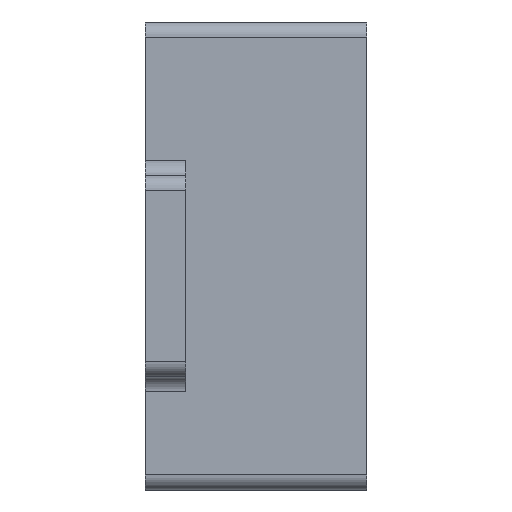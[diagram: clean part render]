
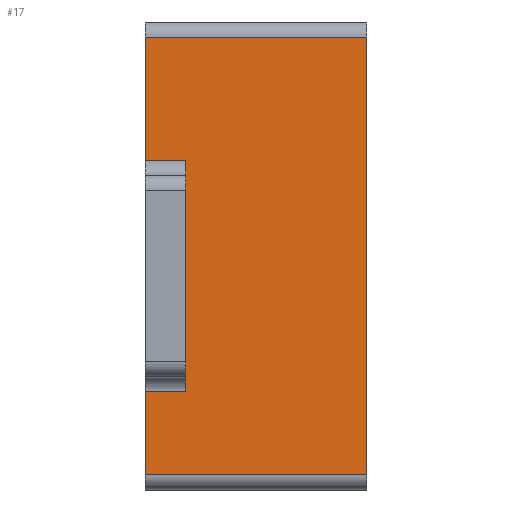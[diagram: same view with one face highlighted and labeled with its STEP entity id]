
A CAD part, left-side view. The second image highlights one B-rep face of the part: STEP entity #17.
In plain terms, the highlighted planar face has unit normal (-1, 0, 0).
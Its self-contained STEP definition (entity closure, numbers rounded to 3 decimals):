
#17 = ADVANCED_FACE('',(#18),#32,.F.);
#18 = FACE_BOUND('',#19,.F.);
#19 = EDGE_LOOP('',(#20,#55,#83,#111,#139,#162,#190,#218,#239,#262));
#20 = ORIENTED_EDGE('',*,*,#21,.T.);
#21 = EDGE_CURVE('',#22,#24,#26,.T.);
#22 = VERTEX_POINT('',#23);
#23 = CARTESIAN_POINT('',(-5.35,-44.6,252.8));
#24 = VERTEX_POINT('',#25);
#25 = CARTESIAN_POINT('',(-5.35,-44.6,255.25));
#26 = SURFACE_CURVE('',#27,(#31,#43),.PCURVE_S1.);
#27 = LINE('',#28,#29);
#28 = CARTESIAN_POINT('',(-5.35,-44.6,246.25));
#29 = VECTOR('',#30,1.);
#30 = DIRECTION('',(0.,0.,1.));
#31 = PCURVE('',#32,#37);
#32 = PLANE('',#33);
#33 = AXIS2_PLACEMENT_3D('',#34,#35,#36);
#34 = CARTESIAN_POINT('',(-5.35,-49.,246.25));
#35 = DIRECTION('',(1.,0.,-0.));
#36 = DIRECTION('',(0.,0.,1.));
#37 = DEFINITIONAL_REPRESENTATION('',(#38),#42);
#38 = LINE('',#39,#40);
#39 = CARTESIAN_POINT('',(0.,-4.4));
#40 = VECTOR('',#41,1.);
#41 = DIRECTION('',(1.,0.));
#42 = ( GEOMETRIC_REPRESENTATION_CONTEXT(2) 
PARAMETRIC_REPRESENTATION_CONTEXT() REPRESENTATION_CONTEXT('2D SPACE',''
  ) );
#43 = PCURVE('',#44,#49);
#44 = PLANE('',#45);
#45 = AXIS2_PLACEMENT_3D('',#46,#47,#48);
#46 = CARTESIAN_POINT('',(-5.35,-44.6,246.25));
#47 = DIRECTION('',(-0.,1.,0.));
#48 = DIRECTION('',(0.,0.,1.));
#49 = DEFINITIONAL_REPRESENTATION('',(#50),#54);
#50 = LINE('',#51,#52);
#51 = CARTESIAN_POINT('',(0.,0.));
#52 = VECTOR('',#53,1.);
#53 = DIRECTION('',(1.,0.));
#54 = ( GEOMETRIC_REPRESENTATION_CONTEXT(2) 
PARAMETRIC_REPRESENTATION_CONTEXT() REPRESENTATION_CONTEXT('2D SPACE',''
  ) );
#55 = ORIENTED_EDGE('',*,*,#56,.F.);
#56 = EDGE_CURVE('',#57,#24,#59,.T.);
#57 = VERTEX_POINT('',#58);
#58 = CARTESIAN_POINT('',(-5.35,-49.,255.25));
#59 = SURFACE_CURVE('',#60,(#64,#71),.PCURVE_S1.);
#60 = LINE('',#61,#62);
#61 = CARTESIAN_POINT('',(-5.35,-49.,255.25));
#62 = VECTOR('',#63,1.);
#63 = DIRECTION('',(0.,1.,0.));
#64 = PCURVE('',#32,#65);
#65 = DEFINITIONAL_REPRESENTATION('',(#66),#70);
#66 = LINE('',#67,#68);
#67 = CARTESIAN_POINT('',(9.,0.));
#68 = VECTOR('',#69,1.);
#69 = DIRECTION('',(0.,-1.));
#70 = ( GEOMETRIC_REPRESENTATION_CONTEXT(2) 
PARAMETRIC_REPRESENTATION_CONTEXT() REPRESENTATION_CONTEXT('2D SPACE',''
  ) );
#71 = PCURVE('',#72,#77);
#72 = CYLINDRICAL_SURFACE('',#73,0.3);
#73 = AXIS2_PLACEMENT_3D('',#74,#75,#76);
#74 = CARTESIAN_POINT('',(-5.05,-49.,255.25));
#75 = DIRECTION('',(0.,1.,0.));
#76 = DIRECTION('',(-1.,0.,0.));
#77 = DEFINITIONAL_REPRESENTATION('',(#78),#82);
#78 = LINE('',#79,#80);
#79 = CARTESIAN_POINT('',(0.,0.));
#80 = VECTOR('',#81,1.);
#81 = DIRECTION('',(0.,1.));
#82 = ( GEOMETRIC_REPRESENTATION_CONTEXT(2) 
PARAMETRIC_REPRESENTATION_CONTEXT() REPRESENTATION_CONTEXT('2D SPACE',''
  ) );
#83 = ORIENTED_EDGE('',*,*,#84,.F.);
#84 = EDGE_CURVE('',#85,#57,#87,.T.);
#85 = VERTEX_POINT('',#86);
#86 = CARTESIAN_POINT('',(-5.35,-49.,246.55));
#87 = SURFACE_CURVE('',#88,(#92,#99),.PCURVE_S1.);
#88 = LINE('',#89,#90);
#89 = CARTESIAN_POINT('',(-5.35,-49.,246.25));
#90 = VECTOR('',#91,1.);
#91 = DIRECTION('',(0.,0.,1.));
#92 = PCURVE('',#32,#93);
#93 = DEFINITIONAL_REPRESENTATION('',(#94),#98);
#94 = LINE('',#95,#96);
#95 = CARTESIAN_POINT('',(0.,0.));
#96 = VECTOR('',#97,1.);
#97 = DIRECTION('',(1.,0.));
#98 = ( GEOMETRIC_REPRESENTATION_CONTEXT(2) 
PARAMETRIC_REPRESENTATION_CONTEXT() REPRESENTATION_CONTEXT('2D SPACE',''
  ) );
#99 = PCURVE('',#100,#105);
#100 = PLANE('',#101);
#101 = AXIS2_PLACEMENT_3D('',#102,#103,#104);
#102 = CARTESIAN_POINT('',(-5.35,-49.,246.25));
#103 = DIRECTION('',(-0.,1.,0.));
#104 = DIRECTION('',(0.,0.,1.));
#105 = DEFINITIONAL_REPRESENTATION('',(#106),#110);
#106 = LINE('',#107,#108);
#107 = CARTESIAN_POINT('',(0.,0.));
#108 = VECTOR('',#109,1.);
#109 = DIRECTION('',(1.,0.));
#110 = ( GEOMETRIC_REPRESENTATION_CONTEXT(2) 
PARAMETRIC_REPRESENTATION_CONTEXT() REPRESENTATION_CONTEXT('2D SPACE',''
  ) );
#111 = ORIENTED_EDGE('',*,*,#112,.F.);
#112 = EDGE_CURVE('',#113,#85,#115,.T.);
#113 = VERTEX_POINT('',#114);
#114 = CARTESIAN_POINT('',(-5.35,-44.6,246.55));
#115 = SURFACE_CURVE('',#116,(#120,#127),.PCURVE_S1.);
#116 = LINE('',#117,#118);
#117 = CARTESIAN_POINT('',(-5.35,-44.6,246.55));
#118 = VECTOR('',#119,1.);
#119 = DIRECTION('',(0.,-1.,0.));
#120 = PCURVE('',#32,#121);
#121 = DEFINITIONAL_REPRESENTATION('',(#122),#126);
#122 = LINE('',#123,#124);
#123 = CARTESIAN_POINT('',(0.3,-4.4));
#124 = VECTOR('',#125,1.);
#125 = DIRECTION('',(0.,1.));
#126 = ( GEOMETRIC_REPRESENTATION_CONTEXT(2) 
PARAMETRIC_REPRESENTATION_CONTEXT() REPRESENTATION_CONTEXT('2D SPACE',''
  ) );
#127 = PCURVE('',#128,#133);
#128 = CYLINDRICAL_SURFACE('',#129,0.3);
#129 = AXIS2_PLACEMENT_3D('',#130,#131,#132);
#130 = CARTESIAN_POINT('',(-5.05,-44.6,246.55));
#131 = DIRECTION('',(0.,-1.,0.));
#132 = DIRECTION('',(-1.,0.,0.));
#133 = DEFINITIONAL_REPRESENTATION('',(#134),#138);
#134 = LINE('',#135,#136);
#135 = CARTESIAN_POINT('',(0.,0.));
#136 = VECTOR('',#137,1.);
#137 = DIRECTION('',(0.,1.));
#138 = ( GEOMETRIC_REPRESENTATION_CONTEXT(2) 
PARAMETRIC_REPRESENTATION_CONTEXT() REPRESENTATION_CONTEXT('2D SPACE',''
  ) );
#139 = ORIENTED_EDGE('',*,*,#140,.T.);
#140 = EDGE_CURVE('',#113,#141,#143,.T.);
#141 = VERTEX_POINT('',#142);
#142 = CARTESIAN_POINT('',(-5.35,-44.6,248.2));
#143 = SURFACE_CURVE('',#144,(#148,#155),.PCURVE_S1.);
#144 = LINE('',#145,#146);
#145 = CARTESIAN_POINT('',(-5.35,-44.6,246.25));
#146 = VECTOR('',#147,1.);
#147 = DIRECTION('',(0.,0.,1.));
#148 = PCURVE('',#32,#149);
#149 = DEFINITIONAL_REPRESENTATION('',(#150),#154);
#150 = LINE('',#151,#152);
#151 = CARTESIAN_POINT('',(0.,-4.4));
#152 = VECTOR('',#153,1.);
#153 = DIRECTION('',(1.,0.));
#154 = ( GEOMETRIC_REPRESENTATION_CONTEXT(2) 
PARAMETRIC_REPRESENTATION_CONTEXT() REPRESENTATION_CONTEXT('2D SPACE',''
  ) );
#155 = PCURVE('',#44,#156);
#156 = DEFINITIONAL_REPRESENTATION('',(#157),#161);
#157 = LINE('',#158,#159);
#158 = CARTESIAN_POINT('',(0.,0.));
#159 = VECTOR('',#160,1.);
#160 = DIRECTION('',(1.,0.));
#161 = ( GEOMETRIC_REPRESENTATION_CONTEXT(2) 
PARAMETRIC_REPRESENTATION_CONTEXT() REPRESENTATION_CONTEXT('2D SPACE',''
  ) );
#162 = ORIENTED_EDGE('',*,*,#163,.T.);
#163 = EDGE_CURVE('',#141,#164,#166,.T.);
#164 = VERTEX_POINT('',#165);
#165 = CARTESIAN_POINT('',(-5.35,-45.4,248.2));
#166 = SURFACE_CURVE('',#167,(#171,#178),.PCURVE_S1.);
#167 = LINE('',#168,#169);
#168 = CARTESIAN_POINT('',(-5.35,-44.6,248.2));
#169 = VECTOR('',#170,1.);
#170 = DIRECTION('',(0.,-1.,0.));
#171 = PCURVE('',#32,#172);
#172 = DEFINITIONAL_REPRESENTATION('',(#173),#177);
#173 = LINE('',#174,#175);
#174 = CARTESIAN_POINT('',(1.95,-4.4));
#175 = VECTOR('',#176,1.);
#176 = DIRECTION('',(0.,1.));
#177 = ( GEOMETRIC_REPRESENTATION_CONTEXT(2) 
PARAMETRIC_REPRESENTATION_CONTEXT() REPRESENTATION_CONTEXT('2D SPACE',''
  ) );
#178 = PCURVE('',#179,#184);
#179 = CYLINDRICAL_SURFACE('',#180,0.3);
#180 = AXIS2_PLACEMENT_3D('',#181,#182,#183);
#181 = CARTESIAN_POINT('',(-5.65,-44.6,248.2));
#182 = DIRECTION('',(0.,-1.,0.));
#183 = DIRECTION('',(1.,0.,0.));
#184 = DEFINITIONAL_REPRESENTATION('',(#185),#189);
#185 = LINE('',#186,#187);
#186 = CARTESIAN_POINT('',(0.,0.));
#187 = VECTOR('',#188,1.);
#188 = DIRECTION('',(0.,1.));
#189 = ( GEOMETRIC_REPRESENTATION_CONTEXT(2) 
PARAMETRIC_REPRESENTATION_CONTEXT() REPRESENTATION_CONTEXT('2D SPACE',''
  ) );
#190 = ORIENTED_EDGE('',*,*,#191,.F.);
#191 = EDGE_CURVE('',#192,#164,#194,.T.);
#192 = VERTEX_POINT('',#193);
#193 = CARTESIAN_POINT('',(-5.35,-45.4,248.5));
#194 = SURFACE_CURVE('',#195,(#199,#206),.PCURVE_S1.);
#195 = LINE('',#196,#197);
#196 = CARTESIAN_POINT('',(-5.35,-45.4,247.375));
#197 = VECTOR('',#198,1.);
#198 = DIRECTION('',(-0.,-0.,-1.));
#199 = PCURVE('',#32,#200);
#200 = DEFINITIONAL_REPRESENTATION('',(#201),#205);
#201 = LINE('',#202,#203);
#202 = CARTESIAN_POINT('',(1.125,-3.6));
#203 = VECTOR('',#204,1.);
#204 = DIRECTION('',(-1.,0.));
#205 = ( GEOMETRIC_REPRESENTATION_CONTEXT(2) 
PARAMETRIC_REPRESENTATION_CONTEXT() REPRESENTATION_CONTEXT('2D SPACE',''
  ) );
#206 = PCURVE('',#207,#212);
#207 = PLANE('',#208);
#208 = AXIS2_PLACEMENT_3D('',#209,#210,#211);
#209 = CARTESIAN_POINT('',(-9.85,-45.4,248.5));
#210 = DIRECTION('',(-0.,1.,0.));
#211 = DIRECTION('',(0.,0.,1.));
#212 = DEFINITIONAL_REPRESENTATION('',(#213),#217);
#213 = LINE('',#214,#215);
#214 = CARTESIAN_POINT('',(-1.125,4.5));
#215 = VECTOR('',#216,1.);
#216 = DIRECTION('',(-1.,0.));
#217 = ( GEOMETRIC_REPRESENTATION_CONTEXT(2) 
PARAMETRIC_REPRESENTATION_CONTEXT() REPRESENTATION_CONTEXT('2D SPACE',''
  ) );
#218 = ORIENTED_EDGE('',*,*,#219,.T.);
#219 = EDGE_CURVE('',#192,#220,#222,.T.);
#220 = VERTEX_POINT('',#221);
#221 = CARTESIAN_POINT('',(-5.35,-45.4,252.5));
#222 = SURFACE_CURVE('',#223,(#227,#233),.PCURVE_S1.);
#223 = LINE('',#224,#225);
#224 = CARTESIAN_POINT('',(-5.35,-45.4,247.375));
#225 = VECTOR('',#226,1.);
#226 = DIRECTION('',(0.,0.,1.));
#227 = PCURVE('',#32,#228);
#228 = DEFINITIONAL_REPRESENTATION('',(#229),#232);
#229 = B_SPLINE_CURVE_WITH_KNOTS('',1,(#230,#231),.UNSPECIFIED.,.F.,.F.,
  (2,2),(1.125,5.125),.PIECEWISE_BEZIER_KNOTS.);
#230 = CARTESIAN_POINT('',(2.25,-3.6));
#231 = CARTESIAN_POINT('',(6.25,-3.6));
#232 = ( GEOMETRIC_REPRESENTATION_CONTEXT(2) 
PARAMETRIC_REPRESENTATION_CONTEXT() REPRESENTATION_CONTEXT('2D SPACE',''
  ) );
#233 = PCURVE('',#207,#234);
#234 = DEFINITIONAL_REPRESENTATION('',(#235),#238);
#235 = B_SPLINE_CURVE_WITH_KNOTS('',1,(#236,#237),.UNSPECIFIED.,.F.,.F.,
  (2,2),(1.125,5.125),.PIECEWISE_BEZIER_KNOTS.);
#236 = CARTESIAN_POINT('',(0.,4.5));
#237 = CARTESIAN_POINT('',(4.,4.5));
#238 = ( GEOMETRIC_REPRESENTATION_CONTEXT(2) 
PARAMETRIC_REPRESENTATION_CONTEXT() REPRESENTATION_CONTEXT('2D SPACE',''
  ) );
#239 = ORIENTED_EDGE('',*,*,#240,.T.);
#240 = EDGE_CURVE('',#220,#241,#243,.T.);
#241 = VERTEX_POINT('',#242);
#242 = CARTESIAN_POINT('',(-5.35,-45.4,252.8));
#243 = SURFACE_CURVE('',#244,(#248,#255),.PCURVE_S1.);
#244 = LINE('',#245,#246);
#245 = CARTESIAN_POINT('',(-5.35,-45.4,247.375));
#246 = VECTOR('',#247,1.);
#247 = DIRECTION('',(0.,0.,1.));
#248 = PCURVE('',#32,#249);
#249 = DEFINITIONAL_REPRESENTATION('',(#250),#254);
#250 = LINE('',#251,#252);
#251 = CARTESIAN_POINT('',(1.125,-3.6));
#252 = VECTOR('',#253,1.);
#253 = DIRECTION('',(1.,0.));
#254 = ( GEOMETRIC_REPRESENTATION_CONTEXT(2) 
PARAMETRIC_REPRESENTATION_CONTEXT() REPRESENTATION_CONTEXT('2D SPACE',''
  ) );
#255 = PCURVE('',#207,#256);
#256 = DEFINITIONAL_REPRESENTATION('',(#257),#261);
#257 = LINE('',#258,#259);
#258 = CARTESIAN_POINT('',(-1.125,4.5));
#259 = VECTOR('',#260,1.);
#260 = DIRECTION('',(1.,0.));
#261 = ( GEOMETRIC_REPRESENTATION_CONTEXT(2) 
PARAMETRIC_REPRESENTATION_CONTEXT() REPRESENTATION_CONTEXT('2D SPACE',''
  ) );
#262 = ORIENTED_EDGE('',*,*,#263,.F.);
#263 = EDGE_CURVE('',#22,#241,#264,.T.);
#264 = SURFACE_CURVE('',#265,(#269,#276),.PCURVE_S1.);
#265 = LINE('',#266,#267);
#266 = CARTESIAN_POINT('',(-5.35,-44.6,252.8));
#267 = VECTOR('',#268,1.);
#268 = DIRECTION('',(0.,-1.,0.));
#269 = PCURVE('',#32,#270);
#270 = DEFINITIONAL_REPRESENTATION('',(#271),#275);
#271 = LINE('',#272,#273);
#272 = CARTESIAN_POINT('',(6.55,-4.4));
#273 = VECTOR('',#274,1.);
#274 = DIRECTION('',(0.,1.));
#275 = ( GEOMETRIC_REPRESENTATION_CONTEXT(2) 
PARAMETRIC_REPRESENTATION_CONTEXT() REPRESENTATION_CONTEXT('2D SPACE',''
  ) );
#276 = PCURVE('',#277,#282);
#277 = CYLINDRICAL_SURFACE('',#278,0.3);
#278 = AXIS2_PLACEMENT_3D('',#279,#280,#281);
#279 = CARTESIAN_POINT('',(-5.65,-44.6,252.8));
#280 = DIRECTION('',(0.,-1.,0.));
#281 = DIRECTION('',(1.,0.,0.));
#282 = DEFINITIONAL_REPRESENTATION('',(#283),#287);
#283 = LINE('',#284,#285);
#284 = CARTESIAN_POINT('',(-0.,0.));
#285 = VECTOR('',#286,1.);
#286 = DIRECTION('',(-0.,1.));
#287 = ( GEOMETRIC_REPRESENTATION_CONTEXT(2) 
PARAMETRIC_REPRESENTATION_CONTEXT() REPRESENTATION_CONTEXT('2D SPACE',''
  ) );
